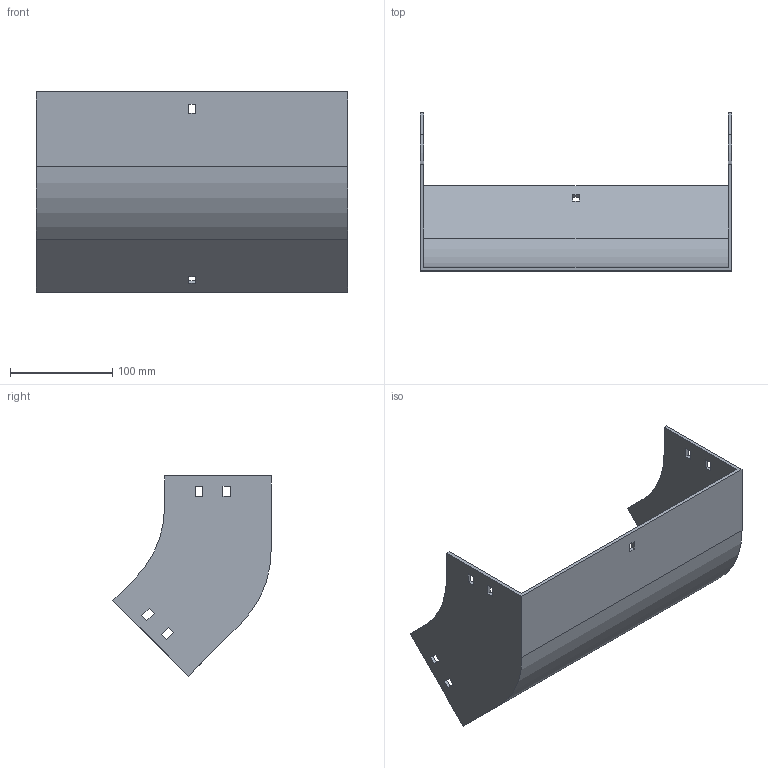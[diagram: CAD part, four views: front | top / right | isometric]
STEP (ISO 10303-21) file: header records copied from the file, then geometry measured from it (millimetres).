
FILE_DESCRIPTION (( 'STEP AP214' ), '1' );
FILE_NAME ('31F1D300.step', '2025-02-21T12:59:04', ( '' ), ( '' ), 'SwSTEP 2.0', 'SolidWorks 2023', '' );
FILE_SCHEMA (( 'AUTOMOTIVE_DESIGN' ));
Length unit declared in the file: millimetre
Products named in the file (1): 31F1D300
Bounding box: 304 x 154.5 x 195.46 mm (x, y, z)
Volume: 365123.9 mm3; surface area: 214325.6 mm2
Topology: 1 solids, 1 shells, 58 faces, 168 edges, 112 vertices
Faces by surface type: plane 54, cylinder 4
Entity records: 1943 total; most frequent: CARTESIAN_POINT 339, ORIENTED_EDGE 336, DIRECTION 294, EDGE_CURVE 168, LINE 160, VECTOR 160, VERTEX_POINT 112, EDGE_LOOP 78
